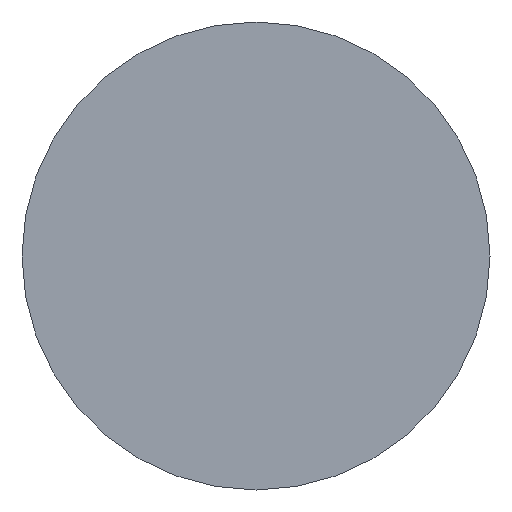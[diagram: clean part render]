
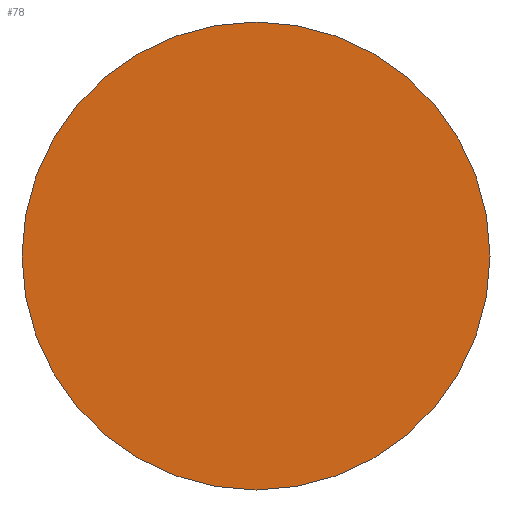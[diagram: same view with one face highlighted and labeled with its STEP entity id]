
A CAD part, front view. The second image highlights one B-rep face of the part: STEP entity #78.
In plain terms, the highlighted planar face has unit normal (0, -1, 0).
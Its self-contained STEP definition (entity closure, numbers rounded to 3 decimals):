
#62 = EDGE_CURVE( '', #130, #74, #150, .T. );
#74 = VERTEX_POINT( '', #164 );
#78 = ADVANCED_FACE( '', ( #168 ), #169, .T. );
#114 = EDGE_CURVE( '', #74, #130, #209, .T. );
#130 = VERTEX_POINT( '', #228 );
#150 = CIRCLE( '', #239, 12.5 );
#164 = CARTESIAN_POINT( '', ( 0., -22., -12.5 ) );
#168 = FACE_OUTER_BOUND( '', #260, .T. );
#169 = PLANE( '', #261 );
#209 = CIRCLE( '', #315, 12.5 );
#228 = CARTESIAN_POINT( '', ( 0., -22., 12.5 ) );
#239 = AXIS2_PLACEMENT_3D( '', #339, #340, #341 );
#260 = EDGE_LOOP( '', ( #366, #367 ) );
#261 = AXIS2_PLACEMENT_3D( '', #368, #369, #370 );
#315 = AXIS2_PLACEMENT_3D( '', #414, #415, #416 );
#339 = CARTESIAN_POINT( '', ( 0., -22., 0. ) );
#340 = DIRECTION( '', ( 0., -1., 0. ) );
#341 = DIRECTION( '', ( 0., 0., 1. ) );
#366 = ORIENTED_EDGE( '', *, *, #62, .T. );
#367 = ORIENTED_EDGE( '', *, *, #114, .T. );
#368 = CARTESIAN_POINT( '', ( 0., -22., 6.25 ) );
#369 = DIRECTION( '', ( 0., -1., 0. ) );
#370 = DIRECTION( '', ( 0., 0., 1. ) );
#414 = CARTESIAN_POINT( '', ( 0., -22., 0. ) );
#415 = DIRECTION( '', ( 0., -1., 0. ) );
#416 = DIRECTION( '', ( 0., 0., 1. ) );
